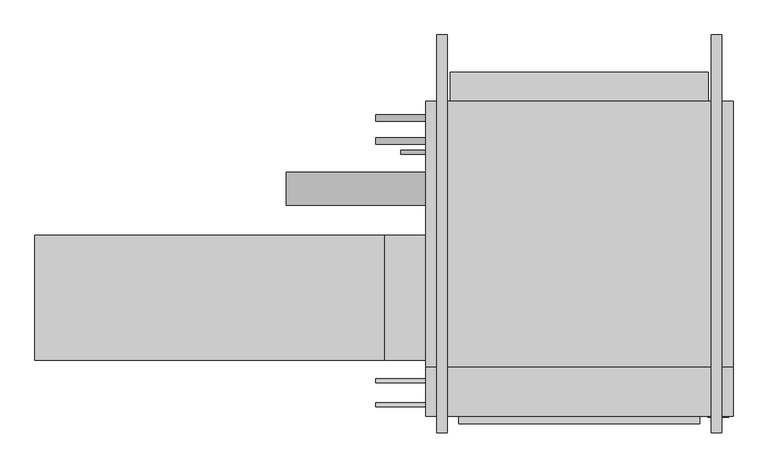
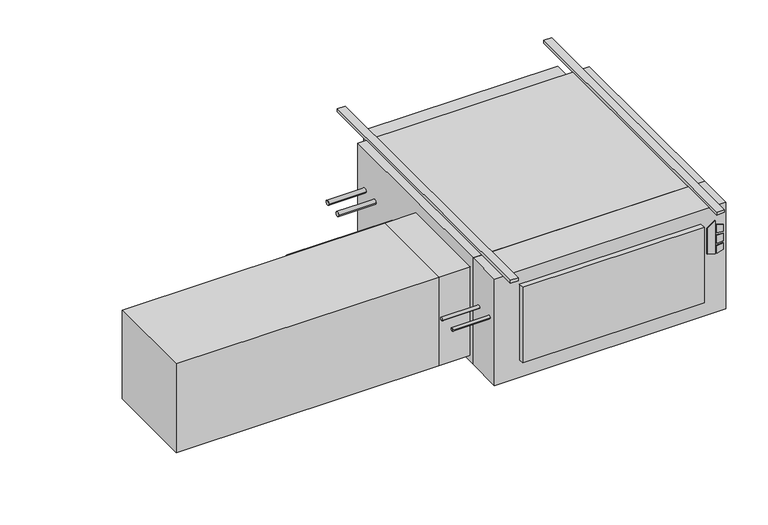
"""IFC4 building model written with IfcOpenShell, lengths in millimetres: proxy geometry."""

from ifc_helpers import new_model, si_unit, point, frame, frame_2d, origin, origin_with_axes, place, context, project, spatial, polyline, circle_curve, trimmed, segment, composite_curve, outline, extrude, source, transform, mapped, element, save


def mechanical_equipment_29029b33(model_context):
    return source(origin(), model_context, "Body", "SweptSolid", [
        extrude(outline(polyline([(-193.2519297, 544.5868862), (-203.2, 576.7602728), (-61.0290756, 576.7602728), (-84.0510817, 544.5868862), (-193.2519297, 544.5868862)])), frame((0.0, -797.052, 0.0), z_axis=(0.0, 1.0, 0.0), x_axis=(0.0, 0.0, 1.0)), (0.0, 0.0, 1.0), 3.175),
        extrude(outline(polyline([(-114.2526443, 583.5186058), (-117.4550368, 609.6), (-88.2261958, 609.6), (-80.1617807, 583.5186058), (-114.2526443, 583.5186058)])), frame((0.0, -797.052, 0.0), z_axis=(0.0, 1.0, 0.0), x_axis=(0.0, 0.0, 1.0)), (0.0, 0.0, 1.0), 3.175),
        extrude(outline(polyline([(-166.1161712, 609.6), (-169.7816721, 583.5186058), (-203.2, 583.5186058), (-194.5657628, 609.6), (-166.1161712, 609.6)])), frame((0.0, -797.052, 0.0), z_axis=(0.0, 1.0, 0.0), x_axis=(0.0, 0.0, 1.0)), (0.0, 0.0, 1.0), 3.175),
        extrude(outline(polyline([(-126.8010097, 609.6), (-124.5191834, 583.5186058), (-160.4567319, 583.5186058), (-157.7154669, 609.6), (-126.8010097, 609.6)])), frame((0.0, -797.052, 0.0), z_axis=(0.0, 1.0, 0.0), x_axis=(0.0, 0.0, 1.0)), (0.0, 0.0, 1.0), 3.175),
        extrude(outline(polyline([(622.3, -793.877), (-317.5, -793.877), (-317.5, -644.525), (622.3, -644.525), (622.3, -793.877)])), frame((0.0, 0.0, -457.2), z_axis=(0.0, 0.0, 1.0), x_axis=(1.0, 0.0, 0.0)), (0.0, 0.0, 1.0), 457.2),
        extrude(outline(polyline([(520.7, -816.229), (-215.9, -816.229), (-215.9, -793.877), (520.7, -793.877), (520.7, -816.229)])), frame((0.0, 0.0, -381.0), z_axis=(0.0, 0.0, 1.0), x_axis=(1.0, 0.0, 0.0)), (0.0, 0.0, 1.0), 323.85),
        extrude(outline(polyline([(-1511.3, -622.3), (-1511.3, -241.3), (-444.5, -241.3), (-444.5, -622.3), (-1511.3, -622.3)])), frame((0.0, 0.0, -431.8), z_axis=(0.0, 0.0, 1.0), x_axis=(1.0, 0.0, 0.0)), (0.0, 0.0, 1.0), 381.0),
        extrude(outline(polyline([(-317.5, -241.3), (-317.5, -622.3), (-444.5, -622.3), (-444.5, -241.3), (-317.5, -241.3)])), frame((0.0, 0.0, -431.8), z_axis=(0.0, 0.0, 1.0), x_axis=(1.0, 0.0, 0.0)), (0.0, 0.0, 1.0), 381.0),
        extrude(outline(composite_curve([segment(trimmed(circle_curve(frame_2d((-758.825, -184.15)), 6.35), [point((-765.175, -184.15))], [point((-752.475, -184.15))], False, "CARTESIAN"), True, "CONTINUOUS"), segment(trimmed(circle_curve(frame_2d((-758.825, -184.15)), 6.35), [point((-752.475, -184.15))], [point((-765.175, -184.15))], False, "CARTESIAN"), True, "CONTINUOUS")], self_intersect=False)), frame((-469.9, 0.0, 0.0), z_axis=(1.0, 0.0, 0.0), x_axis=(0.0, 1.0, 0.0)), (0.0, 0.0, 1.0), 152.4),
        extrude(outline(composite_curve([segment(trimmed(circle_curve(frame_2d((-685.8, -184.15)), 6.35), [point((-692.15, -184.15))], [point((-679.45, -184.15))], False, "CARTESIAN"), True, "CONTINUOUS"), segment(trimmed(circle_curve(frame_2d((-685.8, -184.15)), 6.35), [point((-679.45, -184.15))], [point((-692.15, -184.15))], False, "CARTESIAN"), True, "CONTINUOUS")], self_intersect=False)), frame((-469.9, 0.0, 0.0), z_axis=(1.0, 0.0, 0.0), x_axis=(0.0, 1.0, 0.0)), (0.0, 0.0, 1.0), 152.4),
        extrude(outline(composite_curve([segment(trimmed(circle_curve(frame_2d((-98.4896516, -228.6360165)), 50.8), [point((-149.2896516, -228.6360165))], [point((-47.6896516, -228.6360165))], False, "CARTESIAN"), True, "CONTINUOUS"), segment(trimmed(circle_curve(frame_2d((-98.4896516, -228.6360165)), 50.8), [point((-47.6896516, -228.6360165))], [point((-149.2896516, -228.6360165))], False, "CARTESIAN"), True, "CONTINUOUS")], self_intersect=False)), frame((-742.95, 0.0, 0.0), z_axis=(1.0, 0.0, 0.0), x_axis=(0.0, 1.0, 0.0)), (0.0, 0.0, 1.0), 425.45),
        extrude(outline(composite_curve([segment(trimmed(circle_curve(frame_2d((47.625, -177.8)), 9.525), [point((38.1, -177.8))], [point((57.15, -177.8))], False, "CARTESIAN"), True, "CONTINUOUS"), segment(trimmed(circle_curve(frame_2d((47.625, -177.8)), 9.525), [point((57.15, -177.8))], [point((38.1, -177.8))], False, "CARTESIAN"), True, "CONTINUOUS")], self_intersect=False)), frame((-469.9, 0.0, 0.0), z_axis=(1.0, 0.0, 0.0), x_axis=(0.0, 1.0, 0.0)), (0.0, 0.0, 1.0), 152.4),
        extrude(outline(composite_curve([segment(trimmed(circle_curve(frame_2d((117.475, -171.45)), 9.525), [point((107.95, -171.45))], [point((127.0, -171.45))], False, "CARTESIAN"), True, "CONTINUOUS"), segment(trimmed(circle_curve(frame_2d((117.475, -171.45)), 9.525), [point((127.0, -171.45))], [point((107.95, -171.45))], False, "CARTESIAN"), True, "CONTINUOUS")], self_intersect=False)), frame((-469.9, 0.0, 0.0), z_axis=(1.0, 0.0, 0.0), x_axis=(0.0, 1.0, 0.0)), (0.0, 0.0, 1.0), 152.4),
        extrude(outline(composite_curve([segment(trimmed(circle_curve(frame_2d((12.7, -409.575)), 6.35), [point((6.35, -409.575))], [point((19.05, -409.575))], False, "CARTESIAN"), True, "CONTINUOUS"), segment(trimmed(circle_curve(frame_2d((12.7, -409.575)), 6.35), [point((19.05, -409.575))], [point((6.35, -409.575))], False, "CARTESIAN"), True, "CONTINUOUS")], self_intersect=False)), frame((-393.7, 0.0, 0.0), z_axis=(1.0, 0.0, 0.0), x_axis=(0.0, 1.0, 0.0)), (0.0, 0.0, 1.0), 76.2),
        extrude(outline(polyline([(622.3, 168.275), (622.3, -644.525), (-317.5, -644.525), (-317.5, 168.275), (622.3, 168.275)])), frame((0.0, 0.0, -457.2), z_axis=(0.0, 0.0, 1.0), x_axis=(1.0, 0.0, 0.0)), (0.0, 0.0, 1.0), 457.2),
        extrude(outline(polyline([(-241.3, 257.175), (546.1, 257.175), (546.1, 168.275), (-241.3, 168.275), (-241.3, 257.175)])), frame((0.0, 0.0, -381.0), z_axis=(0.0, 0.0, 1.0), x_axis=(1.0, 0.0, 0.0)), (0.0, 0.0, 1.0), 355.6),
        extrude(outline(polyline([(-250.825, 371.475), (-250.825, -844.677), (-282.575, -844.677), (-282.575, 371.475), (-250.825, 371.475)])), origin_with_axes(), (0.0, 0.0, 1.0), 12.7),
        extrude(outline(polyline([(587.375, 371.475), (587.375, -844.677), (555.625, -844.677), (555.625, 371.475), (587.375, 371.475)])), origin_with_axes(), (0.0, 0.0, 1.0), 12.7),
    ])


if __name__ == "__main__":
    model = new_model("IFC4")
    model_context = context("Model", 3, world=origin())
    ifc_project = project(units=[si_unit("LENGTHUNIT", "METRE", prefix="MILLI")], contexts=[model_context])
    site = spatial("IfcSite", under=ifc_project)
    building = spatial("IfcBuilding", under=site)
    placement = place(None, origin())
    mechanical_equipment_shape = mechanical_equipment_29029b33(model_context)
    element("IfcBuildingElementProxy", 1, Name="High_Capacity_Horizontal_Cabinet_Fan_Coil_Unit_-_HTY_-_IEC_-_4-Pipe_WO-Attenuator_LH Side_2022 : Size 12 - 115v/60Hz/1Ph - 4/1 Coil - 4\" AirIn", ObjectType="High_Capacity_Horizontal_Cabinet_Fan_Coil_Unit_-_HTY_-_IEC_-_4-Pipe_WO-Attenuator_LH Side_2022 : Size 12 - 115v/60Hz/1Ph - 4/1 Coil - 4\" AirIn", at=placement, inside=building, context=model_context, shape_type="MappedRepresentation", body=[
        mapped(mechanical_equipment_shape, transform((0.0, 0.0, 0.0), x_axis=(1.0, 0.0, 0.0), y_axis=(0.0, 1.0, 0.0), z_axis=(0.0, 0.0, 1.0))),
    ])
    save(model, "model.ifc")
